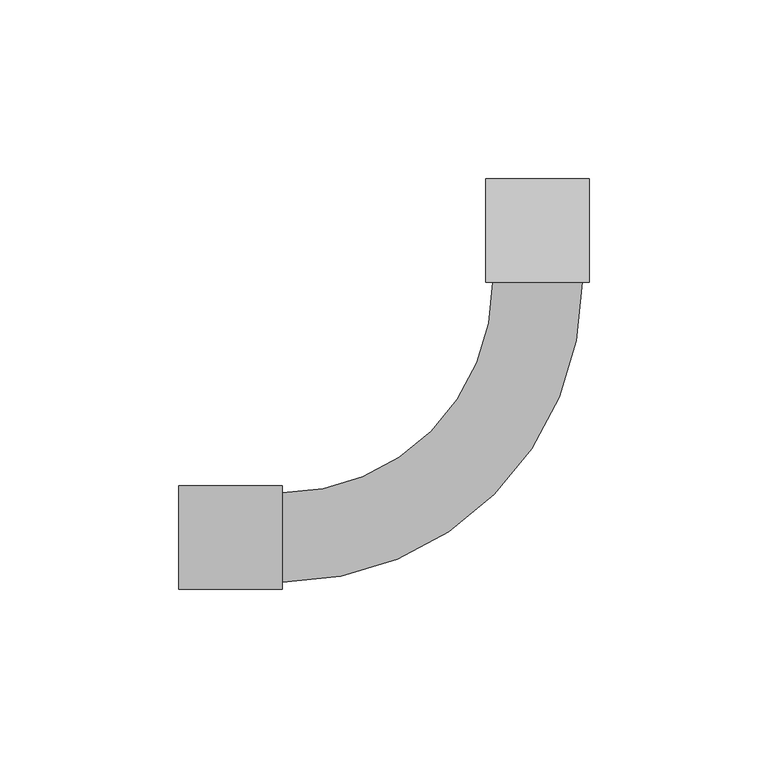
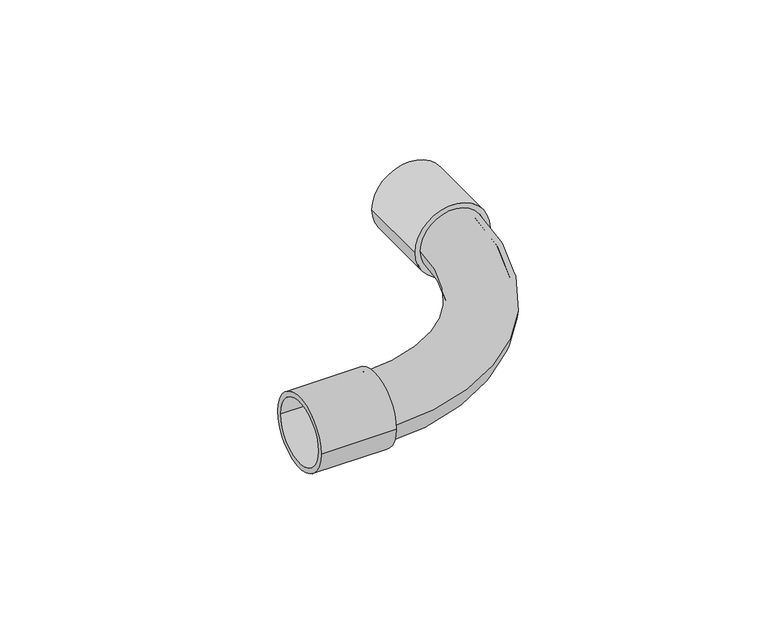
"""IFC4 building model written with IfcOpenShell, lengths in millimetres: cable carrier fitting geometry."""

import ifcopenshell
import ifcopenshell.guid

model = None  # the IFC model being written
_history = None  # IfcOwnerHistory: only IFC2X3 demands one
_inside = {}  # id of a spatial element -> (the spatial element, [elements in it])
_under = {}  # id of a project, library or spatial element -> (it, [spatial elements below it])
_declared = {}  # id of a project -> (the project, [libraries it declares])
_typed = {}  # id of a type object -> (the type object, [elements of that type])
_made_of = {}  # id of a material, layer set ... -> (it, [elements and type objects made of it])


def new_model(schema):
    """Start an empty IFC model of exactly this schema.

    Asked for "IFC4X3", IfcOpenShell would pick the latest addendum, in which some entities
    have other attributes; the version numbers below select the first issue.
    IFC2X3 requires an IfcOwnerHistory on every rooted entity: one is made here for all.
    """
    global model, _history
    if schema == "IFC4X3":
        model = ifcopenshell.file(schema_version=(4, 3, 0, 0))
    else:
        model = ifcopenshell.file(schema=schema)
    _inside.clear()
    _under.clear()
    _declared.clear()
    _typed.clear()
    _made_of.clear()
    _history = None
    if model.schema == "IFC2X3":
        org = make("IfcOrganization", Name="unknown")
        user = make(
            "IfcPersonAndOrganization",
            ThePerson=make("IfcPerson", FamilyName="unknown"),
            TheOrganization=org,
        )
        app = make(
            "IfcApplication",
            ApplicationDeveloper=org,
            Version="unknown",
            ApplicationFullName="unknown",
            ApplicationIdentifier="unknown",
        )
        _history = make(
            "IfcOwnerHistory",
            OwningUser=user,
            OwningApplication=app,
            ChangeAction="ADDED",
            CreationDate=0,
        )
    return model


def make(cls, **values):
    """One entity of the class cls with the attributes given. An attribute that is None is left unset."""
    return model.create_entity(
        cls, **{name: value for name, value in values.items() if value is not None}
    )


def rooted(cls, **values):
    """An entity with a GlobalId (a new one), such as an element, a storey or a relation."""
    return make(cls, GlobalId=ifcopenshell.guid.new(), OwnerHistory=_history, **values)


def si_unit(unit_type, name, prefix=None):
    """IfcSIUnit, for example si_unit("LENGTHUNIT", "METRE", prefix="MILLI")."""
    return make("IfcSIUnit", UnitType=unit_type, Prefix=prefix, Name=name)


def assignment(units):
    """IfcUnitAssignment: the units of a project."""
    return None if units is None else make("IfcUnitAssignment", Units=units)


def point(xyz):
    """IfcCartesianPoint."""
    return None if xyz is None else make("IfcCartesianPoint", Coordinates=xyz)


def direction(xyz):
    """IfcDirection."""
    return None if xyz is None else make("IfcDirection", DirectionRatios=xyz)


def frame(location, z_axis=None, x_axis=None):
    """IfcAxis2Placement3D, a coordinate frame: its origin and axes. An axis left out is left unset."""
    return make(
        "IfcAxis2Placement3D",
        Location=point(location),
        Axis=direction(z_axis),
        RefDirection=direction(x_axis),
    )


def frame_2d(location, x_axis=None):
    """IfcAxis2Placement2D, a coordinate frame in the plane: its origin and x axis."""
    return make(
        "IfcAxis2Placement2D", Location=point(location), RefDirection=direction(x_axis)
    )


def origin():
    """The frame at (0, 0, 0) with its axes left unset."""
    return frame((0.0, 0.0, 0.0))


def origin_2d():
    """The frame at (0, 0) in the plane with its x axis left unset."""
    return frame_2d((0.0, 0.0))


def place(relative_to, where):
    """IfcLocalPlacement: puts the frame where relative to a parent placement (None: the world)."""
    return make(
        "IfcLocalPlacement", PlacementRelTo=relative_to, RelativePlacement=where
    )


def context(
    kind, dimensions, precision=None, world=None, true_north=None, identifier=None
):
    """IfcGeometricRepresentationContext, for example the 3D "Model" context."""
    return make(
        "IfcGeometricRepresentationContext",
        ContextIdentifier=identifier,
        ContextType=kind,
        CoordinateSpaceDimension=dimensions,
        Precision=precision,
        WorldCoordinateSystem=world,
        TrueNorth=true_north,
    )


def project(units=None, contexts=None):
    """IfcProject with its units and contexts."""
    return rooted(
        "IfcProject",
        Name="project",
        RepresentationContexts=contexts,
        UnitsInContext=assignment(units),
    )


def spatial(cls, under=None, at=None, **own):
    """A site, building, storey or space (cls), placed at a placement, below another one or the project."""
    s = rooted(cls, ObjectPlacement=at, **own)
    if under is not None:
        _under.setdefault(under.id(), (under, []))[1].append(s)
    return s


def circle_curve(where, radius):
    """IfcCircle in the frame where."""
    return make("IfcCircle", Position=where, Radius=radius)


def ellipse_curve(where, semi_axis1, semi_axis2):
    """IfcEllipse in the frame where."""
    return make(
        "IfcEllipse", Position=where, SemiAxis1=semi_axis1, SemiAxis2=semi_axis2
    )


def trimmed(basis, trim1, trim2, sense, master):
    """IfcTrimmedCurve: the piece of a basis curve between two trims."""
    return make(
        "IfcTrimmedCurve",
        BasisCurve=basis,
        Trim1=trim1,
        Trim2=trim2,
        SenseAgreement=sense,
        MasterRepresentation=master,
    )


def segment(curve, same_sense, transition):
    """IfcCompositeCurveSegment."""
    return make(
        "IfcCompositeCurveSegment",
        Transition=transition,
        SameSense=same_sense,
        ParentCurve=curve,
    )


def composite_curve(segments, self_intersect=None):
    """IfcCompositeCurve: segments joined end to end."""
    return make("IfcCompositeCurve", Segments=segments, SelfIntersect=self_intersect)


def outline(outer, holes=None, kind="AREA"):
    """IfcArbitraryClosedProfileDef: a profile drawn as a closed curve; with holes, ...WithVoids."""
    if holes is None:
        return make("IfcArbitraryClosedProfileDef", ProfileType=kind, OuterCurve=outer)
    return make(
        "IfcArbitraryProfileDefWithVoids",
        ProfileType=kind,
        OuterCurve=outer,
        InnerCurves=holes,
    )


def extrude(swept, where, along, depth):
    """IfcExtrudedAreaSolid: the profile swept, set in the frame where, extruded along a direction by depth."""
    return make(
        "IfcExtrudedAreaSolid",
        SweptArea=swept,
        Position=where,
        ExtrudedDirection=direction(along),
        Depth=depth,
    )


def shape(context_of_items, identifier, shape_type, items):
    """IfcShapeRepresentation: the items that make up one representation, for example the "Body"."""
    return make(
        "IfcShapeRepresentation",
        ContextOfItems=context_of_items,
        RepresentationIdentifier=identifier,
        RepresentationType=shape_type,
        Items=items,
    )


def source(mapping_origin, context_of_items, identifier, shape_type, items):
    """IfcRepresentationMap: a shape defined once, which mapped items show again and again."""
    return make(
        "IfcRepresentationMap",
        MappingOrigin=mapping_origin,
        MappedRepresentation=shape(context_of_items, identifier, shape_type, items),
    )


def transform(
    local_origin,
    x_axis=None,
    y_axis=None,
    z_axis=None,
    scale=None,
    scale2=None,
    scale3=None,
    uniform=True,
):
    """IfcCartesianTransformationOperator3D, or its non-uniform kind. x_axis, y_axis, z_axis: its Axis1, 2, 3."""
    if uniform:
        return make(
            "IfcCartesianTransformationOperator3D",
            Axis1=direction(x_axis),
            Axis2=direction(y_axis),
            LocalOrigin=point(local_origin),
            Scale=scale,
            Axis3=direction(z_axis),
        )
    return make(
        "IfcCartesianTransformationOperator3DnonUniform",
        Axis1=direction(x_axis),
        Axis2=direction(y_axis),
        LocalOrigin=point(local_origin),
        Scale=scale,
        Axis3=direction(z_axis),
        Scale2=scale2,
        Scale3=scale3,
    )


def mapped(mapping_source, mapping_target):
    """IfcMappedItem: shows the shape of a source again, moved by a transform."""
    return make(
        "IfcMappedItem", MappingSource=mapping_source, MappingTarget=mapping_target
    )


def made_of(thing, what):
    """Note that an element or type object is made of a material, layer set ...; save() writes the relation."""
    if what is not None:
        _made_of.setdefault(what.id(), (what, []))[1].append(thing)
    return thing


def element(
    cls,
    number,
    at=None,
    inside=None,
    cuts=None,
    type_object=None,
    material=None,
    context=None,
    identifier="Body",
    shape_type=None,
    held_by="IfcProductDefinitionShape",
    body=None,
    shapes=None,
    **own,
):
    """One element of the class cls, such as IfcWall. Its Tag is "e" and its number.

    at: its placement. inside: the storey or other place that contains it. cuts: it is an
    opening in that element (IfcRelVoidsElement). A single representation is given by context,
    identifier, shape_type and body (its items); several are given by shapes. held_by: the class
    of the entity that holds the representations. save() writes the other relations.
    """
    e = rooted(cls, Tag="e%d" % number, ObjectPlacement=at, **own)
    if body is not None:
        shapes = [shape(context, identifier, shape_type, body)]
    if shapes is not None:
        e.Representation = make(held_by, Representations=shapes)
    if inside is not None:
        _inside.setdefault(inside.id(), (inside, []))[1].append(e)
    if cuts is not None:
        rooted(
            "IfcRelVoidsElement", RelatingBuildingElement=cuts, RelatedOpeningElement=e
        )
    if type_object is not None:
        _typed.setdefault(type_object.id(), (type_object, []))[1].append(e)
    return made_of(e, material)


def aggregate(whole, parts):
    """IfcRelAggregates: a whole, such as a stair, and the parts it consists of."""
    return rooted("IfcRelAggregates", RelatingObject=whole, RelatedObjects=parts)


def save(model, path):
    """Write the relations noted so far, then the file.

    IfcRelAggregates (storeys below a building ...), IfcRelContainedInSpatialStructure (elements
    in a storey), IfcRelDefinesByType, IfcRelAssociatesMaterial and IfcRelDeclares: one each for
    every whole, place, type object, material and project.
    """
    for whole, parts in _under.values():
        aggregate(whole, parts)
    for where, things in _inside.values():
        rooted(
            "IfcRelContainedInSpatialStructure",
            RelatedElements=things,
            RelatingStructure=where,
        )
    for kind, things in _typed.values():
        rooted("IfcRelDefinesByType", RelatedObjects=things, RelatingType=kind)
    for what, things in _made_of.values():
        rooted("IfcRelAssociatesMaterial", RelatedObjects=things, RelatingMaterial=what)
    for by, libraries in _declared.values():
        rooted("IfcRelDeclares", RelatingContext=by, RelatedDefinitions=libraries)
    model.write(path)


def plane_surface(at):
    """IfcPlane: the flat surface through the origin of the frame at, square to its z axis."""
    return make("IfcPlane", Position=at)


def revolved_surface(curve, axis_point, axis_direction):
    """IfcSurfaceOfRevolution: the curve turned about the line through axis_point along axis_direction."""
    return make(
        "IfcSurfaceOfRevolution",
        SweptCurve=make("IfcArbitraryOpenProfileDef", ProfileType="CURVE", Curve=curve),
        AxisPosition=make("IfcAxis1Placement", Location=point(axis_point), Axis=direction(axis_direction)),
    )


def advanced_brep(points, edges, surfaces, faces):
    """IfcAdvancedBrep: a solid bounded by faces that lie on surfaces and meet in shared edges.

    An edge is (start, end): straight between two places in points (the first is 0);
    or (start, end, curve); or (start, end, curve, False) where it runs against its curve.
    A face is (place in surfaces, loops), or (place, loops, False) where it looks against
    its surface's normal. A loop lists edges by number (the first is 1), with a minus sign
    where the edge is run from its end to its start. The first loop is the outer one.
    """
    corners = [point(p) for p in points]
    vertices = [make("IfcVertexPoint", VertexGeometry=c) for c in corners]
    made = []
    for start, end, *more in edges:
        made.append(
            make(
                "IfcEdgeCurve",
                EdgeStart=vertices[start],
                EdgeEnd=vertices[end],
                EdgeGeometry=more[0] if more else make("IfcPolyline", Points=[corners[start], corners[end]]),
                SameSense=more[1] if len(more) > 1 else True,
            )
        )
    hull = []
    for where, loops, *sense in faces:
        bounds = []
        for j, loop in enumerate(loops):
            ring = [make("IfcOrientedEdge", EdgeElement=made[abs(k) - 1], Orientation=k > 0) for k in loop]
            bounds.append(
                make(
                    "IfcFaceOuterBound" if j == 0 else "IfcFaceBound",
                    Bound=make("IfcEdgeLoop", EdgeList=ring),
                    Orientation=True,
                )
            )
        hull.append(make("IfcAdvancedFace", Bounds=bounds, FaceSurface=surfaces[where], SameSense=sense[0] if sense else True))
    return make("IfcAdvancedBrep", Outer=make("IfcClosedShell", CfsFaces=hull))


def cable_carrier_fitting_2b931e0a(model_context):
    return source(origin(), model_context, "Body", "SolidModel", [
        advanced_brep(
        [(-71.5, -12.5, 0.0), (-71.5, 12.5, 0.0), (-71.5, -10.5, 0.0), (-71.5, 10.5, 0.0), (12.5, 71.5, 0.0), (-12.5, 71.5, 0.0), (10.5, 71.5, 0.0), (-10.5, 71.5, 0.0)],
        [
            (0, 1, circle_curve(frame((-71.5, 0.0, 0.0), z_axis=(-1.0, 0.0, 0.0), x_axis=(0.0, 1.0, 0.0)), 12.5)),
            (1, 0, circle_curve(frame((-71.5, 0.0, 0.0), z_axis=(-1.0, 0.0, 0.0), x_axis=(0.0, 1.0, 0.0)), 12.5)),
            (2, 3, circle_curve(frame((-71.5, 0.0, 0.0), z_axis=(1.0, 0.0, 0.0), x_axis=(0.0, 1.0, 0.0)), 10.5)),
            (3, 2, circle_curve(frame((-71.5, 0.0, 0.0), z_axis=(1.0, 0.0, 0.0), x_axis=(0.0, 1.0, 0.0)), 10.5)),
            (4, 5, circle_curve(frame((0.0, 71.5, 0.0), z_axis=(0.0, 1.0, 0.0), x_axis=(-1.0, 0.0, 0.0)), 12.5)),
            (5, 4, circle_curve(frame((0.0, 71.5, 0.0), z_axis=(0.0, 1.0, 0.0), x_axis=(-1.0, 0.0, 0.0)), 12.5)),
            (6, 7, circle_curve(frame((0.0, 71.5, 0.0), z_axis=(0.0, -1.0, 0.0), x_axis=(-1.0, 0.0, 0.0)), 10.5)),
            (7, 6, circle_curve(frame((0.0, 71.5, 0.0), z_axis=(0.0, -1.0, 0.0), x_axis=(-1.0, 0.0, 0.0)), 10.5)),
            (5, 1, circle_curve(frame((-71.5, 71.5, 0.0), z_axis=(0.0, 0.0, -1.0), x_axis=(0.0, -1.0, 0.0)), 59.0)),
            (0, 4, circle_curve(frame((-71.5, 71.5, 0.0), z_axis=(0.0, 0.0, 1.0), x_axis=(0.0, -1.0, 0.0)), 84.0)),
            (7, 3, circle_curve(frame((-71.5, 71.5, 0.0), z_axis=(0.0, 0.0, -1.0), x_axis=(0.0, -1.0, 0.0)), 61.0)),
            (2, 6, circle_curve(frame((-71.5, 71.5, 0.0), z_axis=(0.0, 0.0, 1.0), x_axis=(0.0, -1.0, 0.0)), 82.0)),
        ],
        [
            plane_surface(frame((-71.5, 0.0, 0.0), z_axis=(-1.0, 0.0, 0.0), x_axis=(0.0, 0.0, 1.0))),
            plane_surface(frame((0.0, 71.5, 0.0), z_axis=(0.0, 1.0, 0.0), x_axis=(0.0, 0.0, 1.0))),
            revolved_surface(trimmed(ellipse_curve(frame((-71.5, 0.0, 0.0), z_axis=(-1.0, 0.0, 0.0), x_axis=(0.0, 1.0, 0.0)), 12.5, 12.5), [point((-71.5, -12.5, 0.0))], [point((-71.5, 12.5, 0.0))], True, "CARTESIAN"), (-71.5, 71.5, 0.0), (0.0, 0.0, 1.0)),
            revolved_surface(trimmed(ellipse_curve(frame((-71.5, 0.0, 0.0), z_axis=(-1.0, 0.0, 0.0), x_axis=(0.0, 1.0, 0.0)), 12.5, 12.5), [point((-71.5, 12.5, 0.0))], [point((-71.5, -12.5, 0.0))], True, "CARTESIAN"), (-71.5, 71.5, 0.0), (0.0, 0.0, 1.0)),
            revolved_surface(trimmed(ellipse_curve(frame((-71.5, 0.0, 0.0), z_axis=(1.0, 0.0, 0.0), x_axis=(0.0, 1.0, 0.0)), 10.5, 10.5), [point((-71.5, -10.5, 0.0))], [point((-71.5, 10.5, 0.0))], True, "CARTESIAN"), (-71.5, 71.5, 0.0), (0.0, 0.0, 1.0)),
            revolved_surface(trimmed(ellipse_curve(frame((-71.5, 0.0, 0.0), z_axis=(1.0, 0.0, 0.0), x_axis=(0.0, 1.0, 0.0)), 10.5, 10.5), [point((-71.5, 10.5, 0.0))], [point((-71.5, -10.5, 0.0))], True, "CARTESIAN"), (-71.5, 71.5, 0.0), (0.0, 0.0, 1.0)),
        ],
        [
            (0, [[1, 2], [3, 4]]),
            (1, [[5, 6], [7, 8]]),
            (2, [[9, -1, 10, -6]]),
            (3, [[-10, -2, -9, -5]]),
            (4, [[11, -3, 12, -8]]),
            (5, [[-12, -4, -11, -7]]),
        ],
    ),
        extrude(outline(composite_curve([segment(trimmed(circle_curve(origin_2d(), 14.5), [point((0.0, 14.5))], [point((0.0, -14.5))], False, "CARTESIAN"), True, "CONTINUOUS"), segment(trimmed(circle_curve(origin_2d(), 14.5), [point((0.0, -14.5))], [point((0.0, 14.5))], False, "CARTESIAN"), True, "CONTINUOUS")], self_intersect=False), holes=[composite_curve([segment(trimmed(circle_curve(origin_2d(), 12.5), [point((0.0, 12.5))], [point((0.0, -12.5))], True, "CARTESIAN"), True, "CONTINUOUS"), segment(trimmed(circle_curve(origin_2d(), 12.5), [point((0.0, -12.5))], [point((0.0, 12.5))], True, "CARTESIAN"), True, "CONTINUOUS")], self_intersect=False)]), frame((0.0, 71.5, 0.0), z_axis=(0.0, 1.0, 0.0), x_axis=(0.0, 0.0, 1.0)), (0.0, 0.0, 1.0), 29.0),
        extrude(outline(composite_curve([segment(trimmed(circle_curve(origin_2d(), 14.5), [point((-14.5, 0.0))], [point((14.5, 0.0))], False, "CARTESIAN"), True, "CONTINUOUS"), segment(trimmed(circle_curve(origin_2d(), 14.5), [point((14.5, 0.0))], [point((-14.5, 0.0))], False, "CARTESIAN"), True, "CONTINUOUS")], self_intersect=False), holes=[composite_curve([segment(trimmed(circle_curve(origin_2d(), 12.5), [point((-12.5, 0.0))], [point((12.5, 0.0))], True, "CARTESIAN"), True, "CONTINUOUS"), segment(trimmed(circle_curve(origin_2d(), 12.5), [point((12.5, 0.0))], [point((-12.5, 0.0))], True, "CARTESIAN"), True, "CONTINUOUS")], self_intersect=False)]), frame((-100.5, 0.0, 0.0), z_axis=(1.0, 0.0, 0.0), x_axis=(0.0, 1.0, 0.0)), (0.0, 0.0, 1.0), 29.0),
    ])


if __name__ == "__main__":
    model = new_model("IFC4")
    model_context = context("Model", 3, world=origin())
    ifc_project = project(units=[si_unit("LENGTHUNIT", "METRE", prefix="MILLI")], contexts=[model_context])
    site = spatial("IfcSite", under=ifc_project)
    building = spatial("IfcBuilding", under=site)
    placement = place(None, origin())
    cable_carrier_fitting_shape = cable_carrier_fitting_2b931e0a(model_context)
    element("IfcCableCarrierFitting", 1, at=placement, inside=building, context=model_context, shape_type="MappedRepresentation", body=[
        mapped(cable_carrier_fitting_shape, transform((0.0, 0.0, 0.0), x_axis=(1.0, 0.0, 0.0), y_axis=(0.0, 1.0, 0.0), z_axis=(0.0, 0.0, 1.0))),
    ])
    save(model, "model.ifc")
